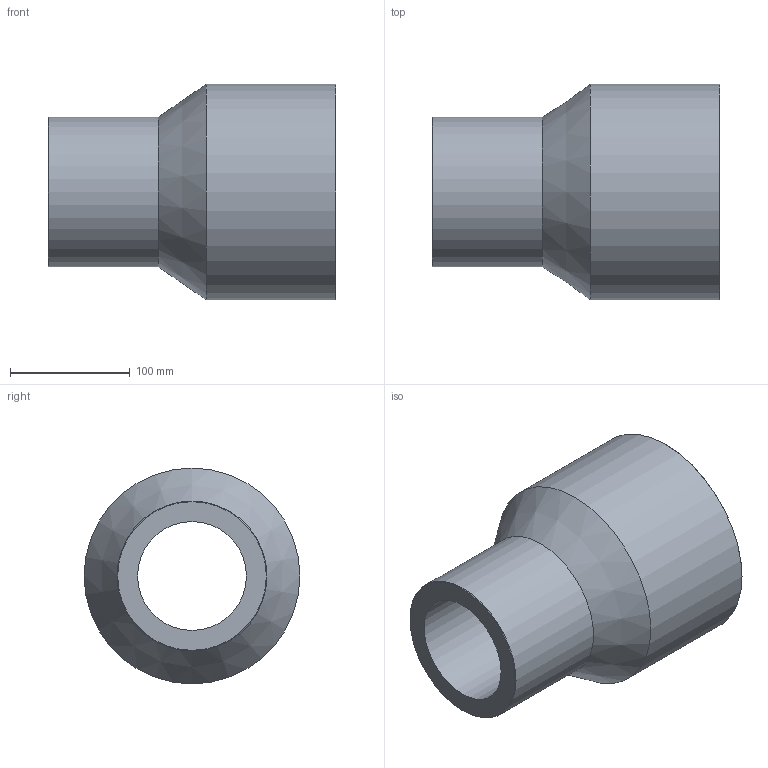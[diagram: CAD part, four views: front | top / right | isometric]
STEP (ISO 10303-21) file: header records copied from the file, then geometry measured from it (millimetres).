
FILE_DESCRIPTION(/* description */ ('Unknown'),/* implementation_level */ '2;1');
FILE_NAME(/* name */ 'RP180125H',/* time_stamp */ '2021-09-16T14:39:51+02:00',/* author */ ('Unknown'),/* organization */ ('Unknown'),/* preprocessor_version */ 'ST-DEVELOPER v16.7',/* originating_system */ 'Solid Edge',/* authorisation */ 'Unknown');
FILE_SCHEMA (('AUTOMOTIVE_DESIGN {1 0 10303 214 3 1 1}'));
Length unit declared in the file: millimetre
Products named in the file (1): RP180125H
Bounding box: 240 x 180 x 180 mm (x, y, z)
Volume: 2217383.9 mm3; surface area: 223444.5 mm2
Topology: 1 solids, 1 shells, 10 faces, 19 edges, 11 vertices
Faces by surface type: cylinder 4, cone 4, plane 2
Full cylindrical faces by diameter (mm): 90.8 x1, 125 x1, 130.8 x1, 180 x1
Entity records: 238 total; most frequent: DIRECTION 42, CARTESIAN_POINT 31, AXIS2_PLACEMENT_3D 21, ORIENTED_EDGE 20, EDGE_LOOP 20, FACE_BOUND 20, EDGE_CURVE 10, VERTEX_POINT 10
